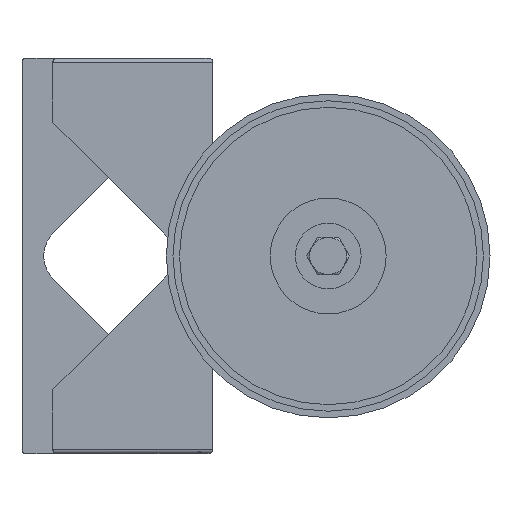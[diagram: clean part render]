
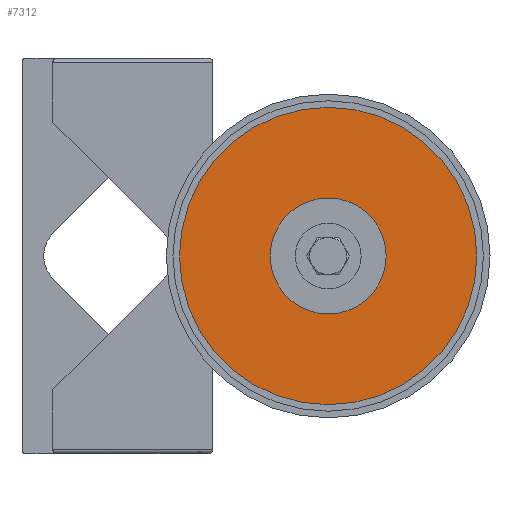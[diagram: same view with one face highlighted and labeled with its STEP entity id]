
A CAD part, front view. The second image highlights one B-rep face of the part: STEP entity #7312.
In plain terms, the highlighted planar face has unit normal (0, -1, 0).
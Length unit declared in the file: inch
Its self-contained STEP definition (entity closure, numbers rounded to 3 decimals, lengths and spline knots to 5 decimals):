
#506 = CIRCLE ( 'NONE', #2711, 2.2575 ) ;
#955 = CARTESIAN_POINT ( 'NONE',  ( 0., -0.53, 0. ) ) ;
#1132 = ORIENTED_EDGE ( 'NONE', *, *, #3868, .T. ) ;
#1155 = CARTESIAN_POINT ( 'NONE',  ( 0., -0.53, -2.2575 ) ) ;
#1912 = AXIS2_PLACEMENT_3D ( 'NONE', #4084, #11703, #5201 ) ;
#2052 = DIRECTION ( 'NONE',  ( 0., 0., -1. ) ) ;
#2101 = AXIS2_PLACEMENT_3D ( 'NONE', #3295, #10890, #4381 ) ;
#2126 = ORIENTED_EDGE ( 'NONE', *, *, #12190, .T. ) ;
#2526 = CARTESIAN_POINT ( 'NONE',  ( 0., -0.53, 0.88 ) ) ;
#2711 = AXIS2_PLACEMENT_3D ( 'NONE', #9302, #2774, #10381 ) ;
#2774 = DIRECTION ( 'NONE',  ( 0., -1., 0. ) ) ;
#3001 = VERTEX_POINT ( 'NONE', #2526 ) ;
#3295 = CARTESIAN_POINT ( 'NONE',  ( 0., -0.53, 0. ) ) ;
#3809 = EDGE_LOOP ( 'NONE', ( #2126, #4138 ) ) ;
#3868 = EDGE_CURVE ( 'NONE', #4179, #3001, #9572, .T. ) ;
#3986 = DIRECTION ( 'NONE',  ( 0., 0., -1. ) ) ;
#4084 = CARTESIAN_POINT ( 'NONE',  ( 0., -0.53, 0. ) ) ;
#4138 = ORIENTED_EDGE ( 'NONE', *, *, #7988, .T. ) ;
#4179 = VERTEX_POINT ( 'NONE', #9271 ) ;
#4381 = DIRECTION ( 'NONE',  ( 0., 0., 1. ) ) ;
#4710 = EDGE_LOOP ( 'NONE', ( #5039, #1132 ) ) ;
#4840 = FACE_BOUND ( 'NONE', #4710, .T. ) ;
#5039 = ORIENTED_EDGE ( 'NONE', *, *, #5331, .T. ) ;
#5201 = DIRECTION ( 'NONE',  ( 0., 0., 1. ) ) ;
#5331 = EDGE_CURVE ( 'NONE', #3001, #4179, #9984, .T. ) ;
#5343 = CIRCLE ( 'NONE', #9864, 2.2575 ) ;
#7312 = ADVANCED_FACE ( 'NONE', ( #4840, #13144 ), #11569, .T. ) ;
#7988 = EDGE_CURVE ( 'NONE', #13673, #10019, #5343, .T. ) ;
#8350 = CARTESIAN_POINT ( 'NONE',  ( 0., -0.53, 2.4575 ) ) ;
#8561 = DIRECTION ( 'NONE',  ( 0., -1., 0. ) ) ;
#8830 = CARTESIAN_POINT ( 'NONE',  ( 0., -0.53, 2.2575 ) ) ;
#9271 = CARTESIAN_POINT ( 'NONE',  ( 0., -0.53, -0.88 ) ) ;
#9302 = CARTESIAN_POINT ( 'NONE',  ( 0., -0.53, 0. ) ) ;
#9572 = CIRCLE ( 'NONE', #2101, 0.88 ) ;
#9864 = AXIS2_PLACEMENT_3D ( 'NONE', #955, #8561, #2052 ) ;
#9984 = CIRCLE ( 'NONE', #1912, 0.88 ) ;
#10019 = VERTEX_POINT ( 'NONE', #1155 ) ;
#10381 = DIRECTION ( 'NONE',  ( 0., 0., -1. ) ) ;
#10518 = DIRECTION ( 'NONE',  ( 0., -1., 0. ) ) ;
#10665 = AXIS2_PLACEMENT_3D ( 'NONE', #8350, #10518, #3986 ) ;
#10890 = DIRECTION ( 'NONE',  ( 0., 1., 0. ) ) ;
#11569 = PLANE ( 'NONE',  #10665 ) ;
#11703 = DIRECTION ( 'NONE',  ( 0., 1., 0. ) ) ;
#12190 = EDGE_CURVE ( 'NONE', #10019, #13673, #506, .T. ) ;
#13144 = FACE_OUTER_BOUND ( 'NONE', #3809, .T. ) ;
#13673 = VERTEX_POINT ( 'NONE', #8830 ) ;
